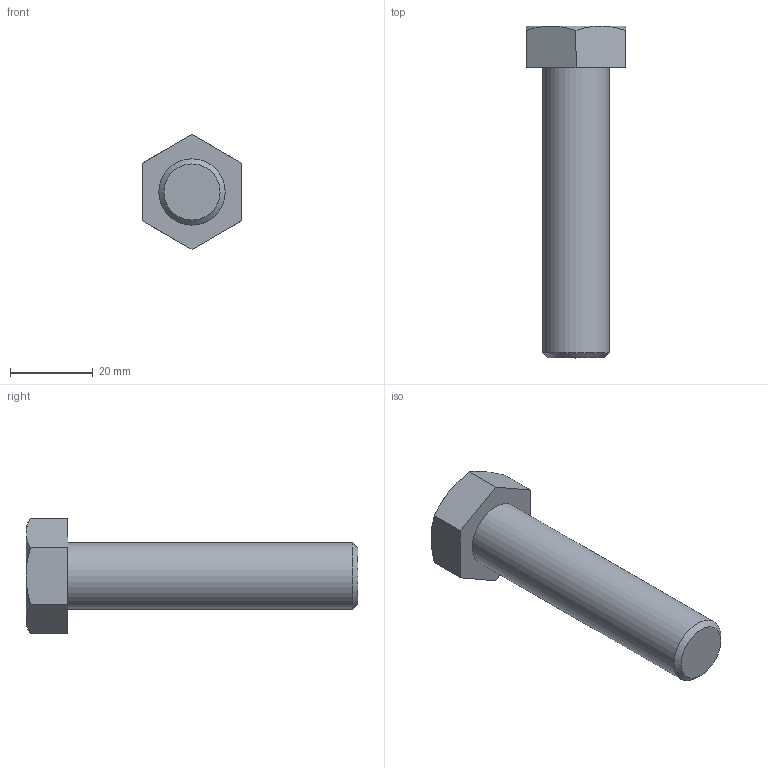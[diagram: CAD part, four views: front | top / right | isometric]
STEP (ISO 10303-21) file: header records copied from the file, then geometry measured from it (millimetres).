
FILE_DESCRIPTION(/* description */ (''),/* implementation_level */ '2;1');
FILE_NAME(/* name */ 'C:\Users\unitec\Documents\Inventor\各種小物\JIS\JIS B 1180 六角ボルト 等級C\hbc16\M16x70.stp',/* time_stamp */ '2015-02-13T14:52:19+09:00',/* author */ ('unitec'),/* organization */ (''),/* preprocessor_version */ 'ST-DEVELOPER v15.2',/* originating_system */ 'Autodesk Inventor 2014',/* authorisation */ '');
FILE_SCHEMA (('AUTOMOTIVE_DESIGN { 1 0 10303 214 3 1 1 }'));
Length unit declared in the file: millimetre
Products named in the file (1): M16x70
Bounding box: 24 x 80 x 27.71 mm (x, y, z)
Volume: 19011.6 mm3; surface area: 5286.1 mm2
Topology: 1 solids, 1 shells, 17 faces, 35 edges, 21 vertices
Faces by surface type: plane 9, cone 7, cylinder 1
Full cylindrical faces by diameter (mm): 16 x1
Entity records: 441 total; most frequent: CARTESIAN_POINT 96, ORIENTED_EDGE 66, DIRECTION 66, EDGE_CURVE 33, AXIS2_PLACEMENT_3D 27, VERTEX_POINT 21, EDGE_LOOP 20, ADVANCED_FACE 17
